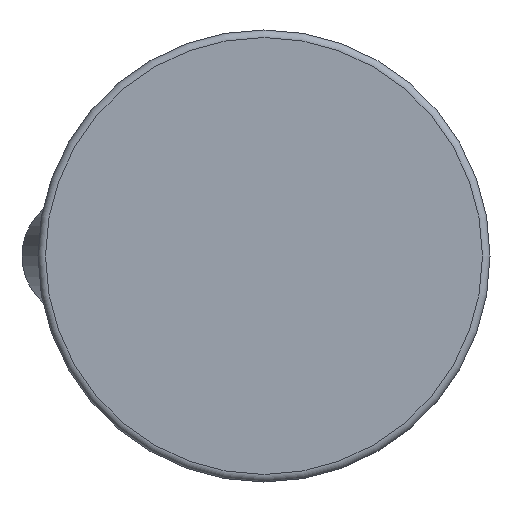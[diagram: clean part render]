
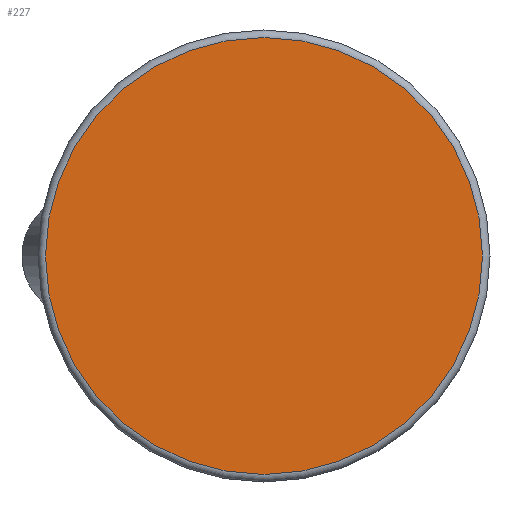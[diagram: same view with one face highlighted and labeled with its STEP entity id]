
A CAD part, front view. The second image highlights one B-rep face of the part: STEP entity #227.
In plain terms, the highlighted planar face has unit normal (0, -1, 0).
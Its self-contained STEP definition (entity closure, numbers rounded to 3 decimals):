
#227 = ADVANCED_FACE( '', ( #434 ), #435, .F. );
#434 = FACE_OUTER_BOUND( '', #634, .T. );
#435 = PLANE( '', #635 );
#634 = EDGE_LOOP( '', ( #1010 ) );
#635 = AXIS2_PLACEMENT_3D( '', #1011, #1012, #1013 );
#1010 = ORIENTED_EDGE( '', *, *, #1247, .T. );
#1011 = CARTESIAN_POINT( '', ( 29., 0., 0. ) );
#1012 = DIRECTION( '', ( 0., 1., 0. ) );
#1013 = DIRECTION( '', ( 0., 0., 1. ) );
#1247 = EDGE_CURVE( '', #1466, #1466, #1467, .T. );
#1466 = VERTEX_POINT( '', #1981 );
#1467 = CIRCLE( '', #1982, 29. );
#1981 = CARTESIAN_POINT( '', ( 0., 0., -29. ) );
#1982 = AXIS2_PLACEMENT_3D( '', #2123, #2124, #2125 );
#2123 = CARTESIAN_POINT( '', ( 0., 0., 0. ) );
#2124 = DIRECTION( '', ( 0., -1., 0. ) );
#2125 = DIRECTION( '', ( 0., 0., -1. ) );
